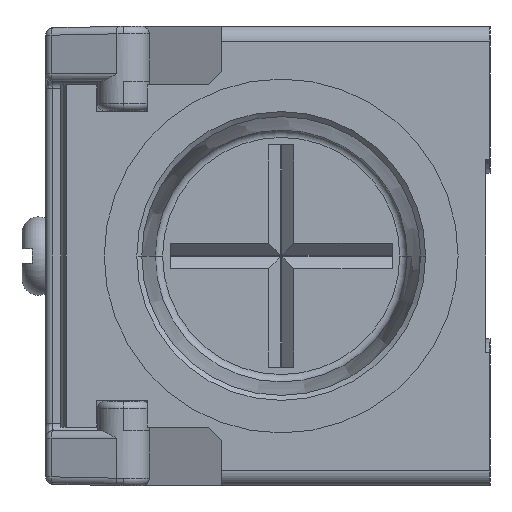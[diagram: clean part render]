
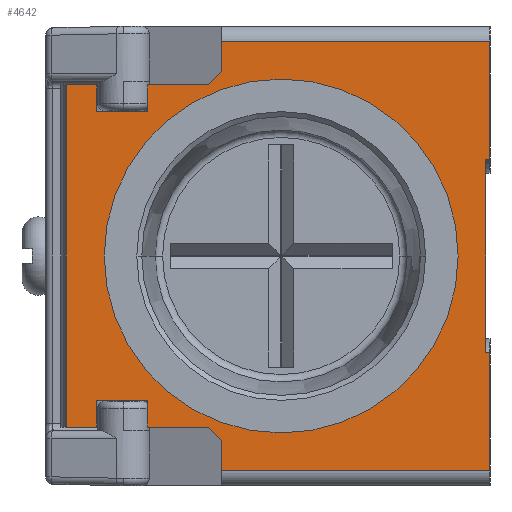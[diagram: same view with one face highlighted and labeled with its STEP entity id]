
A CAD part, left-side view. The second image highlights one B-rep face of the part: STEP entity #4642.
In plain terms, the highlighted planar face has unit normal (-1, 0, 0).
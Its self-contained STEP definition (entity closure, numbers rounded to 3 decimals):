
#2029 = VERTEX_POINT('',#2030);
#2030 = CARTESIAN_POINT('',(-16.956,23.963,6.5));
#2036 = EDGE_CURVE('',#2037,#2029,#2039,.T.);
#2037 = VERTEX_POINT('',#2038);
#2038 = CARTESIAN_POINT('',(-16.956,23.963,-6.5));
#2039 = LINE('',#2040,#2041);
#2040 = CARTESIAN_POINT('',(-16.956,23.963,-6.5));
#2041 = VECTOR('',#2042,1.);
#2042 = DIRECTION('',(0.,0.,1.));
#3367 = VERTEX_POINT('',#3368);
#3368 = CARTESIAN_POINT('',(-16.956,23.663,-6.5));
#3374 = EDGE_CURVE('',#3375,#3367,#3377,.T.);
#3375 = VERTEX_POINT('',#3376);
#3376 = CARTESIAN_POINT('',(-16.956,23.663,-14.5));
#3377 = LINE('',#3378,#3379);
#3378 = CARTESIAN_POINT('',(-16.956,23.663,-14.5));
#3379 = VECTOR('',#3380,1.);
#3380 = DIRECTION('',(0.,0.,1.));
#3674 = VERTEX_POINT('',#3675);
#3675 = CARTESIAN_POINT('',(-16.956,42.663,11.55));
#3681 = EDGE_CURVE('',#3682,#3674,#3684,.T.);
#3682 = VERTEX_POINT('',#3683);
#3683 = CARTESIAN_POINT('',(-16.956,41.763,12.45));
#3684 = LINE('',#3685,#3686);
#3685 = CARTESIAN_POINT('',(-16.956,41.763,12.45));
#3686 = VECTOR('',#3687,1.);
#3687 = DIRECTION('',(0.,0.707,-0.707));
#3707 = EDGE_CURVE('',#3682,#3708,#3710,.T.);
#3708 = VERTEX_POINT('',#3709);
#3709 = CARTESIAN_POINT('',(-16.956,41.763,14.5));
#3710 = LINE('',#3711,#3712);
#3711 = CARTESIAN_POINT('',(-16.956,41.763,12.45));
#3712 = VECTOR('',#3713,1.);
#3713 = DIRECTION('',(0.,0.,1.));
#3730 = EDGE_CURVE('',#3731,#3733,#3735,.T.);
#3731 = VERTEX_POINT('',#3732);
#3732 = CARTESIAN_POINT('',(-16.956,41.763,-14.5));
#3733 = VERTEX_POINT('',#3734);
#3734 = CARTESIAN_POINT('',(-16.956,41.763,-12.45));
#3735 = LINE('',#3736,#3737);
#3736 = CARTESIAN_POINT('',(-16.956,41.763,-14.5));
#3737 = VECTOR('',#3738,1.);
#3738 = DIRECTION('',(0.,0.,1.));
#3763 = EDGE_CURVE('',#3764,#3708,#3766,.T.);
#3764 = VERTEX_POINT('',#3765);
#3765 = CARTESIAN_POINT('',(-16.956,23.663,14.5));
#3766 = LINE('',#3767,#3768);
#3767 = CARTESIAN_POINT('',(-16.956,23.663,14.5));
#3768 = VECTOR('',#3769,1.);
#3769 = DIRECTION('',(0.,1.,0.));
#3875 = EDGE_CURVE('',#3764,#3876,#3878,.T.);
#3876 = VERTEX_POINT('',#3877);
#3877 = CARTESIAN_POINT('',(-16.956,23.663,6.5));
#3878 = LINE('',#3879,#3880);
#3879 = CARTESIAN_POINT('',(-16.956,23.663,14.5));
#3880 = VECTOR('',#3881,1.);
#3881 = DIRECTION('',(0.,0.,-1.));
#4631 = EDGE_CURVE('',#2029,#3876,#4632,.T.);
#4632 = LINE('',#4633,#4634);
#4633 = CARTESIAN_POINT('',(-16.956,23.963,6.5));
#4634 = VECTOR('',#4635,1.);
#4635 = DIRECTION('',(0.,-1.,0.));
#4642 = ADVANCED_FACE('',(#4643,#4759),#4779,.T.);
#4643 = FACE_BOUND('',#4644,.T.);
#4644 = EDGE_LOOP('',(#4645,#4646,#4647,#4655,#4663,#4671,#4679,#4687,
    #4695,#4703,#4711,#4719,#4727,#4735,#4741,#4742,#4748,#4749,#4755,
    #4756,#4757,#4758));
#4645 = ORIENTED_EDGE('',*,*,#3707,.F.);
#4646 = ORIENTED_EDGE('',*,*,#3681,.T.);
#4647 = ORIENTED_EDGE('',*,*,#4648,.F.);
#4648 = EDGE_CURVE('',#4649,#3674,#4651,.T.);
#4649 = VERTEX_POINT('',#4650);
#4650 = CARTESIAN_POINT('',(-16.956,46.813,11.55));
#4651 = LINE('',#4652,#4653);
#4652 = CARTESIAN_POINT('',(-16.956,46.813,11.55));
#4653 = VECTOR('',#4654,1.);
#4654 = DIRECTION('',(0.,-1.,0.));
#4655 = ORIENTED_EDGE('',*,*,#4656,.F.);
#4656 = EDGE_CURVE('',#4657,#4649,#4659,.T.);
#4657 = VERTEX_POINT('',#4658);
#4658 = CARTESIAN_POINT('',(-16.956,46.813,9.75));
#4659 = LINE('',#4660,#4661);
#4660 = CARTESIAN_POINT('',(-16.956,46.813,9.75));
#4661 = VECTOR('',#4662,1.);
#4662 = DIRECTION('',(0.,0.,1.));
#4663 = ORIENTED_EDGE('',*,*,#4664,.T.);
#4664 = EDGE_CURVE('',#4657,#4665,#4667,.T.);
#4665 = VERTEX_POINT('',#4666);
#4666 = CARTESIAN_POINT('',(-16.956,50.213,9.75));
#4667 = LINE('',#4668,#4669);
#4668 = CARTESIAN_POINT('',(-16.956,46.813,9.75));
#4669 = VECTOR('',#4670,1.);
#4670 = DIRECTION('',(0.,1.,0.));
#4671 = ORIENTED_EDGE('',*,*,#4672,.T.);
#4672 = EDGE_CURVE('',#4665,#4673,#4675,.T.);
#4673 = VERTEX_POINT('',#4674);
#4674 = CARTESIAN_POINT('',(-16.956,50.213,11.55));
#4675 = LINE('',#4676,#4677);
#4676 = CARTESIAN_POINT('',(-16.956,50.213,9.75));
#4677 = VECTOR('',#4678,1.);
#4678 = DIRECTION('',(0.,0.,1.));
#4679 = ORIENTED_EDGE('',*,*,#4680,.F.);
#4680 = EDGE_CURVE('',#4681,#4673,#4683,.T.);
#4681 = VERTEX_POINT('',#4682);
#4682 = CARTESIAN_POINT('',(-16.956,52.263,11.55));
#4683 = LINE('',#4684,#4685);
#4684 = CARTESIAN_POINT('',(-16.956,52.263,11.55));
#4685 = VECTOR('',#4686,1.);
#4686 = DIRECTION('',(0.,-1.,0.));
#4687 = ORIENTED_EDGE('',*,*,#4688,.T.);
#4688 = EDGE_CURVE('',#4681,#4689,#4691,.T.);
#4689 = VERTEX_POINT('',#4690);
#4690 = CARTESIAN_POINT('',(-16.956,52.263,-11.55));
#4691 = LINE('',#4692,#4693);
#4692 = CARTESIAN_POINT('',(-16.956,52.263,11.55));
#4693 = VECTOR('',#4694,1.);
#4694 = DIRECTION('',(0.,0.,-1.));
#4695 = ORIENTED_EDGE('',*,*,#4696,.T.);
#4696 = EDGE_CURVE('',#4689,#4697,#4699,.T.);
#4697 = VERTEX_POINT('',#4698);
#4698 = CARTESIAN_POINT('',(-16.956,50.213,-11.55));
#4699 = LINE('',#4700,#4701);
#4700 = CARTESIAN_POINT('',(-16.956,52.263,-11.55));
#4701 = VECTOR('',#4702,1.);
#4702 = DIRECTION('',(0.,-1.,0.));
#4703 = ORIENTED_EDGE('',*,*,#4704,.F.);
#4704 = EDGE_CURVE('',#4705,#4697,#4707,.T.);
#4705 = VERTEX_POINT('',#4706);
#4706 = CARTESIAN_POINT('',(-16.956,50.213,-9.75));
#4707 = LINE('',#4708,#4709);
#4708 = CARTESIAN_POINT('',(-16.956,50.213,-9.75));
#4709 = VECTOR('',#4710,1.);
#4710 = DIRECTION('',(0.,0.,-1.));
#4711 = ORIENTED_EDGE('',*,*,#4712,.F.);
#4712 = EDGE_CURVE('',#4713,#4705,#4715,.T.);
#4713 = VERTEX_POINT('',#4714);
#4714 = CARTESIAN_POINT('',(-16.956,46.813,-9.75));
#4715 = LINE('',#4716,#4717);
#4716 = CARTESIAN_POINT('',(-16.956,46.813,-9.75));
#4717 = VECTOR('',#4718,1.);
#4718 = DIRECTION('',(0.,1.,0.));
#4719 = ORIENTED_EDGE('',*,*,#4720,.T.);
#4720 = EDGE_CURVE('',#4713,#4721,#4723,.T.);
#4721 = VERTEX_POINT('',#4722);
#4722 = CARTESIAN_POINT('',(-16.956,46.813,-11.55));
#4723 = LINE('',#4724,#4725);
#4724 = CARTESIAN_POINT('',(-16.956,46.813,-9.75));
#4725 = VECTOR('',#4726,1.);
#4726 = DIRECTION('',(0.,0.,-1.));
#4727 = ORIENTED_EDGE('',*,*,#4728,.T.);
#4728 = EDGE_CURVE('',#4721,#4729,#4731,.T.);
#4729 = VERTEX_POINT('',#4730);
#4730 = CARTESIAN_POINT('',(-16.956,42.663,-11.55));
#4731 = LINE('',#4732,#4733);
#4732 = CARTESIAN_POINT('',(-16.956,46.813,-11.55));
#4733 = VECTOR('',#4734,1.);
#4734 = DIRECTION('',(0.,-1.,0.));
#4735 = ORIENTED_EDGE('',*,*,#4736,.T.);
#4736 = EDGE_CURVE('',#4729,#3733,#4737,.T.);
#4737 = LINE('',#4738,#4739);
#4738 = CARTESIAN_POINT('',(-16.956,42.663,-11.55));
#4739 = VECTOR('',#4740,1.);
#4740 = DIRECTION('',(0.,-0.707,-0.707));
#4741 = ORIENTED_EDGE('',*,*,#3730,.F.);
#4742 = ORIENTED_EDGE('',*,*,#4743,.T.);
#4743 = EDGE_CURVE('',#3731,#3375,#4744,.T.);
#4744 = LINE('',#4745,#4746);
#4745 = CARTESIAN_POINT('',(-16.956,41.763,-14.5));
#4746 = VECTOR('',#4747,1.);
#4747 = DIRECTION('',(0.,-1.,0.));
#4748 = ORIENTED_EDGE('',*,*,#3374,.T.);
#4749 = ORIENTED_EDGE('',*,*,#4750,.F.);
#4750 = EDGE_CURVE('',#2037,#3367,#4751,.T.);
#4751 = LINE('',#4752,#4753);
#4752 = CARTESIAN_POINT('',(-16.956,23.963,-6.5));
#4753 = VECTOR('',#4754,1.);
#4754 = DIRECTION('',(0.,-1.,0.));
#4755 = ORIENTED_EDGE('',*,*,#2036,.T.);
#4756 = ORIENTED_EDGE('',*,*,#4631,.T.);
#4757 = ORIENTED_EDGE('',*,*,#3875,.F.);
#4758 = ORIENTED_EDGE('',*,*,#3763,.T.);
#4759 = FACE_BOUND('',#4760,.T.);
#4760 = EDGE_LOOP('',(#4761,#4772));
#4761 = ORIENTED_EDGE('',*,*,#4762,.F.);
#4762 = EDGE_CURVE('',#4763,#4765,#4767,.T.);
#4763 = VERTEX_POINT('',#4764);
#4764 = CARTESIAN_POINT('',(-16.956,37.763,-9.75));
#4765 = VERTEX_POINT('',#4766);
#4766 = CARTESIAN_POINT('',(-16.956,37.763,9.75));
#4767 = CIRCLE('',#4768,9.75);
#4768 = AXIS2_PLACEMENT_3D('',#4769,#4770,#4771);
#4769 = CARTESIAN_POINT('',(-16.956,37.763,
    0.));
#4770 = DIRECTION('',(-1.,0.,0.));
#4771 = DIRECTION('',(0.,0.,-1.));
#4772 = ORIENTED_EDGE('',*,*,#4773,.F.);
#4773 = EDGE_CURVE('',#4765,#4763,#4774,.T.);
#4774 = CIRCLE('',#4775,9.75);
#4775 = AXIS2_PLACEMENT_3D('',#4776,#4777,#4778);
#4776 = CARTESIAN_POINT('',(-16.956,37.763,
    0.));
#4777 = DIRECTION('',(-1.,0.,0.));
#4778 = DIRECTION('',(0.,0.,1.));
#4779 = PLANE('',#4780);
#4780 = AXIS2_PLACEMENT_3D('',#4781,#4782,#4783);
#4781 = CARTESIAN_POINT('',(-16.956,48.763,-15.5));
#4782 = DIRECTION('',(-1.,0.,0.));
#4783 = DIRECTION('',(0.,0.,-1.));
